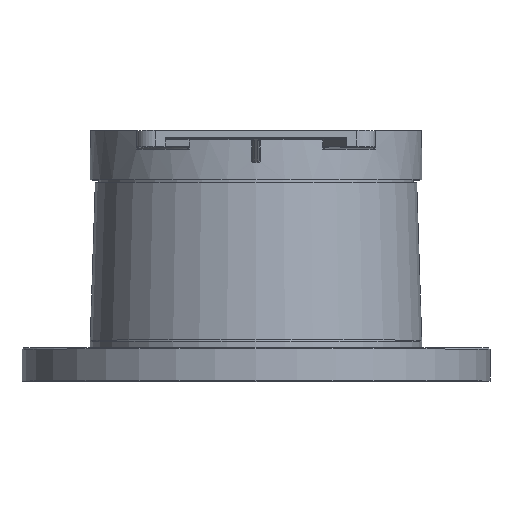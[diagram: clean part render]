
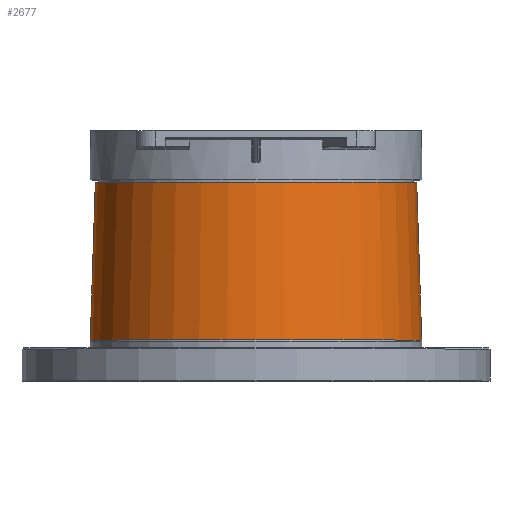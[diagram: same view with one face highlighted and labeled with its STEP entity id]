
A CAD part, top view. The second image highlights one B-rep face of the part: STEP entity #2677.
In plain terms, the highlighted free-form (B-spline) face has degree [2, 1] with [9, 2] control points.
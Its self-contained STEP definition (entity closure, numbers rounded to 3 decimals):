
#2591=CARTESIAN_POINT('',(1075.872,-97.393,0.0));
#2592=VERTEX_POINT('',#2591);
#2600=CARTESIAN_POINT('',(826.183,-97.393,0.0));
#2601=VERTEX_POINT('',#2600);
#2602=CARTESIAN_POINT('',(951.027,-97.393,0.0));
#2603=DIRECTION('',(0.0,-1.0,0.0));
#2604=DIRECTION('',(1.0,0.0,0.0));
#2605=AXIS2_PLACEMENT_3D('',#2602,#2603,#2604);
#2606=CIRCLE('',#2605,124.845);
#2607=EDGE_CURVE('',#2592,#2601,#2606,.T.);
#2609=CARTESIAN_POINT('',(951.027,-97.393,0.0));
#2610=DIRECTION('',(0.0,-1.0,0.0));
#2611=DIRECTION('',(1.0,0.0,0.0));
#2612=AXIS2_PLACEMENT_3D('',#2609,#2610,#2611);
#2613=CIRCLE('',#2612,124.845);
#2614=EDGE_CURVE('',#2601,#2592,#2613,.T.);
#2622=CARTESIAN_POINT('',(1075.872,-97.393,0.0));
#2623=CARTESIAN_POINT('',(1075.872,-97.393,124.845));
#2624=CARTESIAN_POINT('',(951.027,-97.393,124.845));
#2625=CARTESIAN_POINT('',(826.183,-97.393,124.845));
#2626=CARTESIAN_POINT('',(826.183,-97.393,0.0));
#2627=CARTESIAN_POINT('',(826.183,-97.393,-124.845));
#2628=CARTESIAN_POINT('',(951.027,-97.393,-124.845));
#2629=CARTESIAN_POINT('',(1075.872,-97.393,-124.845));
#2630=CARTESIAN_POINT('',(1075.872,-97.393,0.0));
#2631=CARTESIAN_POINT('',(1072.059,21.268,0.0));
#2632=CARTESIAN_POINT('',(1072.059,21.268,121.032));
#2633=CARTESIAN_POINT('',(951.027,21.268,121.032));
#2634=CARTESIAN_POINT('',(829.995,21.268,121.032));
#2635=CARTESIAN_POINT('',(829.995,21.268,0.0));
#2636=CARTESIAN_POINT('',(829.995,21.268,-121.032));
#2637=CARTESIAN_POINT('',(951.027,21.268,-121.032));
#2638=CARTESIAN_POINT('',(1072.059,21.268,-121.032));
#2639=CARTESIAN_POINT('',(1072.059,21.268,0.0));
#2647=(BOUNDED_SURFACE()B_SPLINE_SURFACE(2,1,((#2622,#2631),(#2623,#2632),(#2624,#2633),(#2625,#2634),(#2626,#2635),(#2627,#2636),(#2628,#2637),(#2629,#2638),(#2630,#2639)),.UNSPECIFIED.,.T.,.F.,.U.)B_SPLINE_SURFACE_WITH_KNOTS((3,2,2,2,3),(2,2),(0.0,0.25,0.5,0.75,1.0),(0.0,118.722),.UNSPECIFIED.)GEOMETRIC_REPRESENTATION_ITEM()RATIONAL_B_SPLINE_SURFACE(((1.0,1.0),(0.707,0.707),(1.0,1.0),(0.707,0.707),(1.0,1.0),(0.707,0.707),(1.0,1.0),(0.707,0.707),(1.0,1.0)))REPRESENTATION_ITEM('')SURFACE());
#2648=CARTESIAN_POINT('',(1072.059,21.268,0.0));
#2649=VERTEX_POINT('',#2648);
#2650=CARTESIAN_POINT('',(1075.872,-97.393,0.0));
#2651=DIRECTION('',(-0.032,0.999,0.0));
#2652=VECTOR('',#2651,118.722);
#2653=LINE('',#2650,#2652);
#2654=EDGE_CURVE('',#2592,#2649,#2653,.T.);
#2655=ORIENTED_EDGE('',*,*,#2654,.T.);
#2656=CARTESIAN_POINT('',(829.995,21.268,0.0));
#2657=VERTEX_POINT('',#2656);
#2658=CARTESIAN_POINT('',(951.027,21.268,0.0));
#2659=DIRECTION('',(0.0,-1.0,0.0));
#2660=DIRECTION('',(1.0,0.0,0.0));
#2661=AXIS2_PLACEMENT_3D('',#2658,#2659,#2660);
#2662=CIRCLE('',#2661,121.032);
#2663=EDGE_CURVE('',#2649,#2657,#2662,.T.);
#2664=ORIENTED_EDGE('',*,*,#2663,.T.);
#2665=CARTESIAN_POINT('',(951.027,21.268,0.0));
#2666=DIRECTION('',(0.0,-1.0,0.0));
#2667=DIRECTION('',(1.0,0.0,0.0));
#2668=AXIS2_PLACEMENT_3D('',#2665,#2666,#2667);
#2669=CIRCLE('',#2668,121.032);
#2670=EDGE_CURVE('',#2657,#2649,#2669,.T.);
#2671=ORIENTED_EDGE('',*,*,#2670,.T.);
#2672=ORIENTED_EDGE('',*,*,#2654,.F.);
#2673=ORIENTED_EDGE('',*,*,#2614,.F.);
#2674=ORIENTED_EDGE('',*,*,#2607,.F.);
#2675=EDGE_LOOP('',(#2655,#2664,#2671,#2672,#2673,#2674));
#2676=FACE_OUTER_BOUND('',#2675,.T.);
#2677=ADVANCED_FACE('',(#2676),#2647,.F.);
